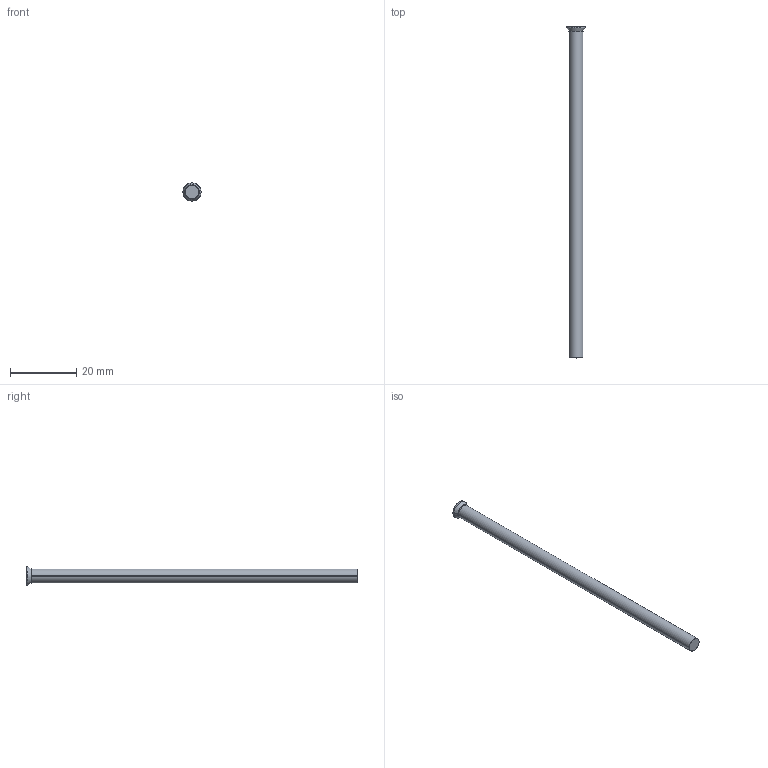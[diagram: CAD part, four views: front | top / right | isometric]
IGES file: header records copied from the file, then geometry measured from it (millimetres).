
Start section: SolidWorks IGES file using analytic representation for surfaces
Global section: file name: D:\Cleonir_arquivos\MT_15_07\Punções de Corte Tipo DA DIN 9861\PNDA04,2100H.igs; native system: SolidWorks 2013; preprocessor: SolidWorks 2013; author: Cleonir; date: 130731.210403; units: millimetre
Bounding box: 5.5 x 100.5 x 5.5 mm (x, y, z)
Surface area: 1370.7 mm2 (no closed solid volume)
Topology: 0 solids, 0 shells, 314 faces, 1899 edges, 1899 vertices
Faces by surface type: bspline 300, revolution 14
